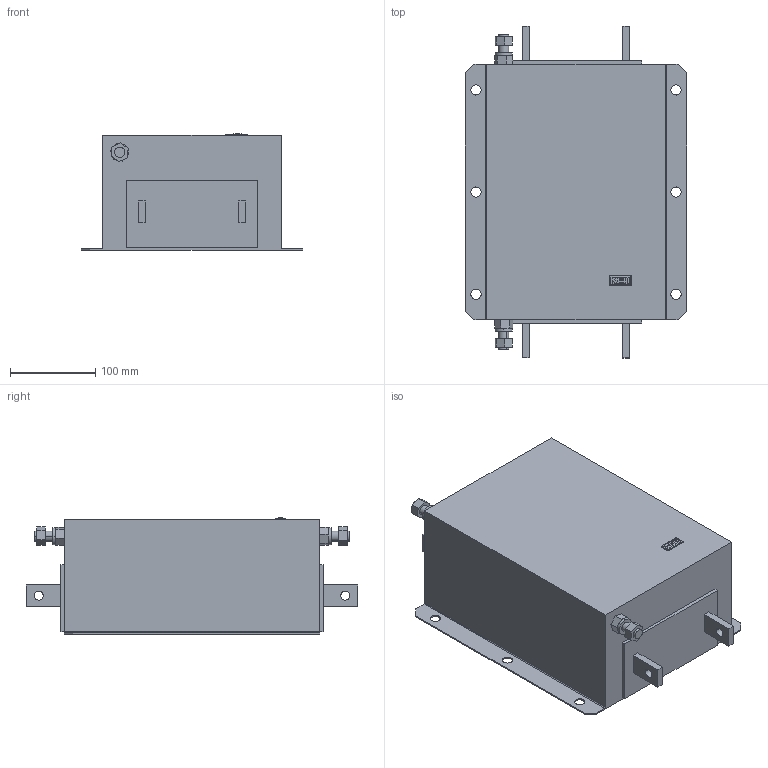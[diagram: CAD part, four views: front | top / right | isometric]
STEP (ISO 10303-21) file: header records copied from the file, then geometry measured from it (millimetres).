
FILE_DESCRIPTION (( 'STEP AP214' ), '1' );
FILE_NAME ('00E5X07-0030.STEP', '2023-07-10T13:34:08', ( '' ), ( '' ), 'SwSTEP 2.0', 'SolidWorks 2022', '' );
FILE_SCHEMA (( 'AUTOMOTIVE_DESIGN' ));
Length unit declared in the file: millimetre
Products named in the file (1): 00E5X07-0030
Bounding box: 260 x 390 x 136.52 mm (x, y, z)
Volume: 8671436.3 mm3; surface area: 311932 mm2
Topology: 1 solids, 1 shells, 192 faces, 481 edges, 310 vertices
Faces by surface type: plane 134, cylinder 45, bspline 13
Entity records: 6644 total; most frequent: CARTESIAN_POINT 1877, ORIENTED_EDGE 962, DIRECTION 855, EDGE_CURVE 481, VERTEX_POINT 310, VECTOR 287, LINE 287, AXIS2_PLACEMENT_3D 284
